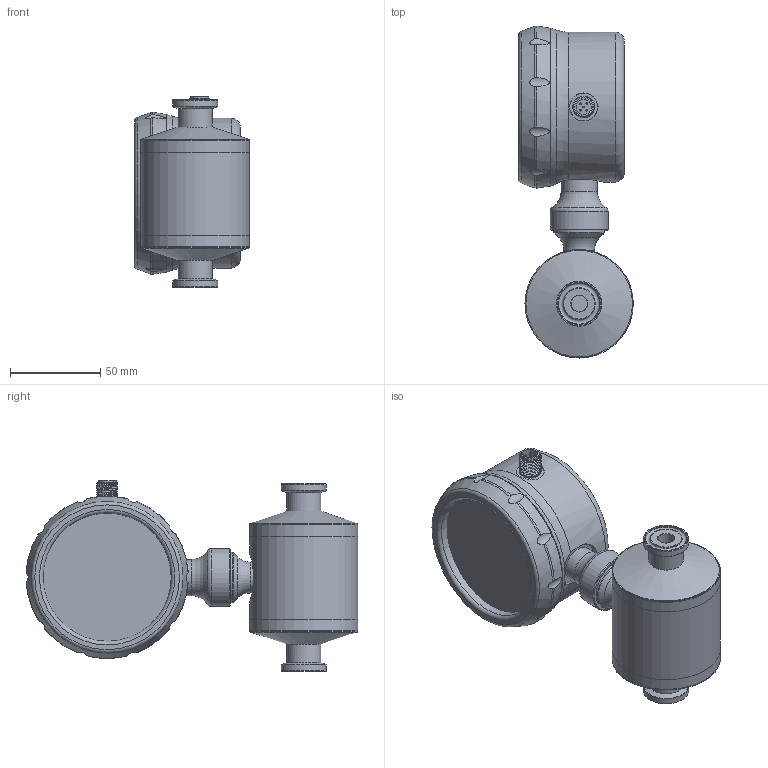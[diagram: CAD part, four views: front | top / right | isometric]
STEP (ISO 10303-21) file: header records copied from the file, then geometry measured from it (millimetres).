
FILE_DESCRIPTION( (''), '2;1');
FILE_NAME( 'QMKD_DN8_H25.4_tri-clamp.step', '2025-06-24T10:28:16+08:00', (''), (''), '', '', '');
FILE_SCHEMA (('AUTOMOTIVE_DESIGN { 1 0 10303 214 3 1 1 1 }'));
Length unit declared in the file: millimetre
Products named in the file (1): QMKD DN8_H25.4_tri-clamp
Bounding box: 63.5 x 183.81 x 105.43 mm (x, y, z)
Volume: 585840.7 mm3; surface area: 93287.3 mm2
Topology: 9 solids, 9 shells, 206 faces, 483 edges, 306 vertices
Faces by surface type: cylinder 77, plane 41, torus 30, cone 26, sphere 20, bspline 12
Full cylindrical faces by diameter (mm): 9 x2, 11.6 x2, 15 x2, 15.5 x1, 17 x1, 18 x2, 19 x2, 20 x1, 25 x2, 26 x1, 28 x1, 32 x1, 54 x2, 60 x3, 71 x1, 80 x2, 83 x1
Entity records: 8030 total; most frequent: CARTESIAN_POINT 3869, DIRECTION 843, ORIENTED_EDGE 734, AXIS2_PLACEMENT_3D 397, EDGE_CURVE 367, EDGE_LOOP 303, VERTEX_POINT 274, ADVANCED_FACE 206
